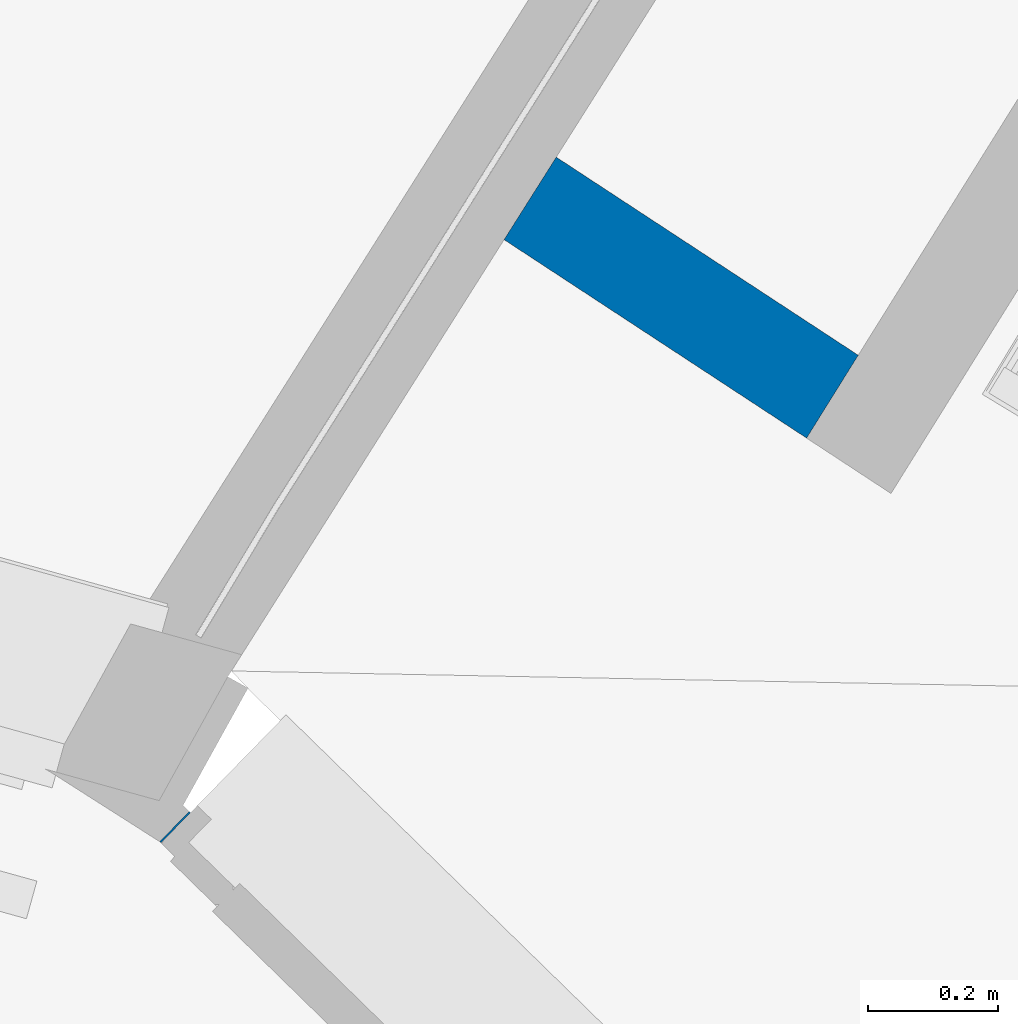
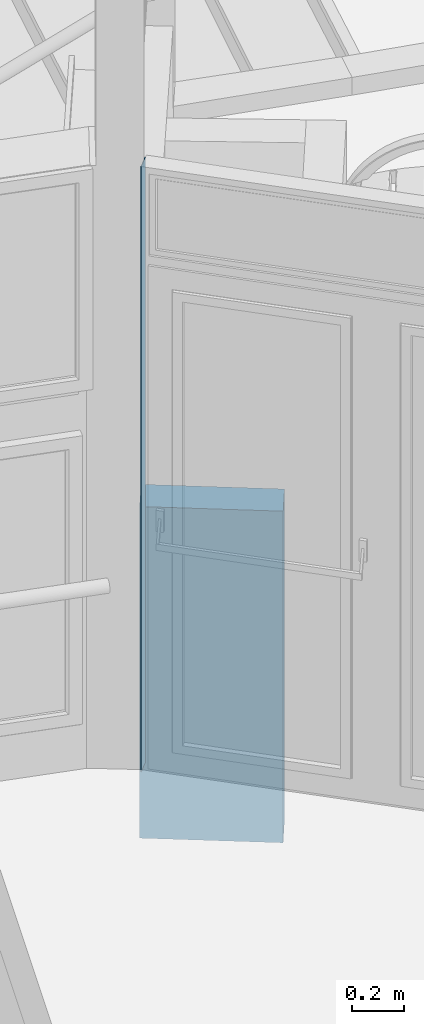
# One storey, part 22 of 133: 2 walls, 1 opening.
"""IFC2X3 building model written with IfcOpenShell, lengths in centimetres."""

from ifc_helpers import new_model, entity, si_unit, converted_unit, direction, frame, origin, origin_with_axes, origin_2d_with_axis, place, context, subcontext, project, spatial, polyline, rectangle, outline, extrude, shape, material, layer, layer_set, layer_usage, type_object, element, save


model = new_model("IFC2X3")

# Units and contexts
model_context = context("Model", 3, precision=0.0001, world=origin(), true_north=direction((0.225632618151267, 0.974212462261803, 0.0)))
body_context = subcontext(model_context, "Body", "Model", "MODEL_VIEW")
footprint_context = subcontext(model_context, "FootPrint", "Model", "MODEL_VIEW")
profile_context = subcontext(model_context, "Profile", "Model", "MODEL_VIEW")
ifc_project = project(units=[si_unit("LENGTHUNIT", "METRE", prefix="CENTI"), si_unit("AREAUNIT", "SQUARE_METRE", prefix="CENTI"), si_unit("VOLUMEUNIT", "CUBIC_METRE", prefix="CENTI"), converted_unit("PLANEANGLEUNIT", "DEGREE", entity("IfcRatioMeasure", 0.0174532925), si_unit("PLANEANGLEUNIT", "RADIAN"), dimensions=[0, 0, 0, 0, 0, 0, 0])], contexts=[model_context])

# Site, building, storey
site_placement = place(None, origin_with_axes())
site = spatial("IfcSite", under=ifc_project, at=site_placement, Name="Default Site", CompositionType="ELEMENT")
building_placement = place(site_placement, origin_with_axes())
building = spatial("IfcBuilding", under=site, at=building_placement, Name="Default Building", CompositionType="ELEMENT")
storey_placement = place(building_placement, frame((0.0, 0.0, -291.400371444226), z_axis=(0.0, 0.0, 1.0), x_axis=(1.0, 0.0, 0.0)))
storey = spatial("IfcBuildingStorey", under=building, at=storey_placement, Name="Rez-de-Jardin", CompositionType="ELEMENT", Elevation=-291.400371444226)

# Wall, opening
ifc_material = material(Name="<aucun>")
ifc_layer_1 = layer(ifc_material, 6.5)
ifc_layer_set_1 = layer_set([ifc_layer_1], Name="default")
ifc_layer_usage_1 = layer_usage(ifc_layer_set_1, "AXIS2", "POSITIVE", -3.25)
wall_type_1 = type_object("IfcWallType", Name="default 65", PredefinedType="NOTDEFINED", material=ifc_layer_set_1)
wall_1_placement = place(storey_placement, frame((1577.95969652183, -375.2853678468, 106.0), z_axis=(0.0, 0.0, 1.0), x_axis=(-0.715501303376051, 0.698611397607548, 0.0)))
wall_1 = element("IfcWallStandardCase", 1, at=wall_1_placement, inside=storey, type_object=wall_type_1, material=ifc_layer_usage_1, Name="Enveloppe 525107", context=body_context, shape_type="SweptSolid", body=[
    extrude(rectangle(XDim=6.49999999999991, YDim=146.254944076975, at=origin_2d_with_axis()), frame((73.1274720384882, 3.5527136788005e-13, -1.55431223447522e-13), z_axis=(0.0, 0.0, 1.0), x_axis=(1.95399252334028e-14, -1.0, 0.0)), (0.0, 0.0, 1.0), 285.400371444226),
])
opening_placement = place(wall_1_placement, frame((0.0, 0.0, 2.49999999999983), z_axis=(0.0, 0.0, 1.0), x_axis=(1.0, 6.82787160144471e-15, 0.0)))
cartesian_point_1 = entity("IfcCartesianPoint", [0.0, 1.77635683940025e-13, 282.9])
cartesian_point_2 = entity("IfcCartesianPoint", [145.978741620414, 3.25000000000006])
element("IfcOpeningElement", 2, at=opening_placement, cuts=wall_1, Name="4294966389_11", ObjectType="Opening", shapes=[
    shape(body_context, "Body", "SweptSolid", [extrude(outline(polyline([(0.0, 282.9), (0.0, -2.49999999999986), (145.978741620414, -2.49999999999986), (145.978741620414, 282.9), (0.0, 282.9)])), frame((0.0, 13.25, 0.0), z_axis=(0.0, -1.0, 0.0), x_axis=(1.0, 0.0, 0.0)), (0.0, 0.0, 1.0), 26.5)]),
    shape(profile_context, "Profile", "GeometricCurveSet", [entity("IfcGeometricCurveSet", [entity("IfcPolyline", [cartesian_point_1, entity("IfcCartesianPoint", [0.0, 1.77635683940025e-13, -2.22044604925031e-14]), entity("IfcCartesianPoint", [145.978741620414, 1.77635683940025e-13, -2.22044604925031e-14]), entity("IfcCartesianPoint", [145.978741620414, 1.77635683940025e-13, 282.9]), cartesian_point_1])])]),
    shape(footprint_context, "FootPrint", "GeometricCurveSet", [entity("IfcGeometricCurveSet", [entity("IfcPolyline", [cartesian_point_2, entity("IfcCartesianPoint", [0.0, 3.25000000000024]), entity("IfcCartesianPoint", [0.0, -3.25000000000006]), entity("IfcCartesianPoint", [145.978741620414, -3.25000000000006]), cartesian_point_2])])]),
])

# Wall
ifc_layer_2 = layer(ifc_material, 15.0)
ifc_layer_set_2 = layer_set([ifc_layer_2], Name="default")
ifc_layer_usage_2 = layer_usage(ifc_layer_set_2, "AXIS2", "POSITIVE", -7.5)
wall_type_2 = type_object("IfcWallType", Name="default 150", PredefinedType="NOTDEFINED", material=ifc_layer_set_2)
wall_2_placement = place(storey_placement, frame((1587.55205692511, -215.64779174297, 8.88178419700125e-14), z_axis=(0.0, 0.0, 1.0), x_axis=(-0.83619007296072, 0.54843975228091, 0.0)))
element("IfcWallStandardCase", 3, at=wall_2_placement, inside=storey, type_object=wall_type_2, material=ifc_layer_usage_2, Name="Enveloppe 294982", context=body_context, shape_type="SweptSolid", body=[
    extrude(outline(polyline([(71.1198044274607, 7.49999999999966), (15.5026770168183, 7.49999999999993), (15.8495899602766, -7.50000000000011), (71.3716381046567, -7.50000000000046), (71.1198044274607, 7.49999999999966)])), frame((0.0, 0.0, -1.94955163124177e-11), z_axis=(0.0, 0.0, 1.0), x_axis=(1.0, 0.0, 0.0)), (0.0, 0.0, 1.0), 156.400371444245),
])

save(model, "model.ifc")
